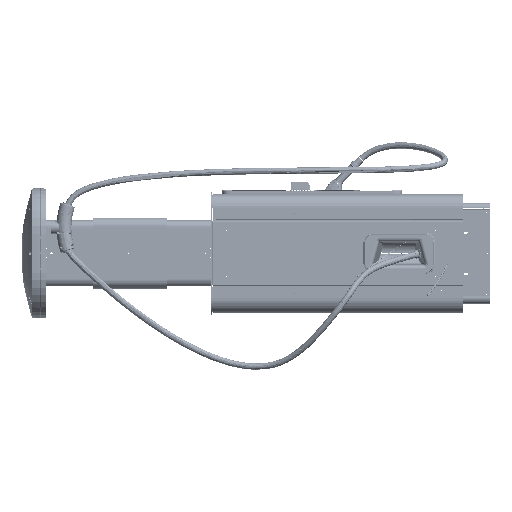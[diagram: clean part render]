
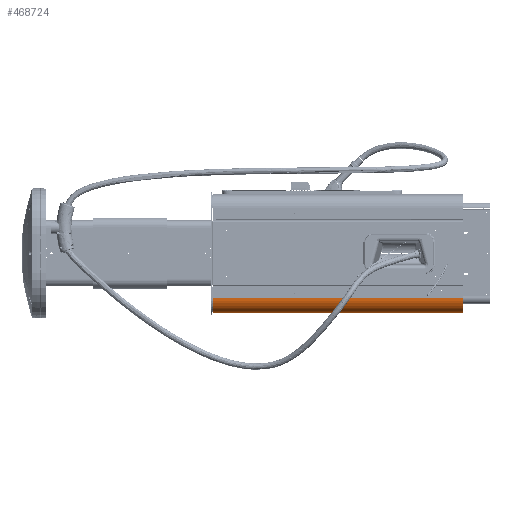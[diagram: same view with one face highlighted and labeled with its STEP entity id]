
A CAD part, left-side view. The second image highlights one B-rep face of the part: STEP entity #468724.
In plain terms, the highlighted cylindrical face has radius 80 mm (diameter 160 mm), a partial arc.
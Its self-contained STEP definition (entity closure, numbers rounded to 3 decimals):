
#1290 = CARTESIAN_POINT ( 'NONE',  ( -1063.066, 150.119, -325. ) ) ;
#34360 = CARTESIAN_POINT ( 'NONE',  ( -1063.066, 1512.119, -325. ) ) ;
#60219 = DIRECTION ( 'NONE',  ( 0., -1., 0. ) ) ;
#97343 = EDGE_CURVE ( 'NONE', #719266, #976985, #815993, .T. ) ;
#105613 = CARTESIAN_POINT ( 'NONE',  ( -1143.066, 1512.119, -245. ) ) ;
#113271 = VERTEX_POINT ( 'NONE', #290898 ) ;
#132221 = DIRECTION ( 'NONE',  ( 0., 0., 1. ) ) ;
#217900 = VECTOR ( 'NONE', #60219, 1000. ) ;
#230403 = CARTESIAN_POINT ( 'NONE',  ( -1063.066, 150.119, -245. ) ) ;
#282587 = EDGE_CURVE ( 'NONE', #113271, #389397, #697507, .T. ) ;
#290898 = CARTESIAN_POINT ( 'NONE',  ( -1063.066, 1512.119, -325. ) ) ;
#334169 = ORIENTED_EDGE ( 'NONE', *, *, #1214991, .F. ) ;
#360092 = ORIENTED_EDGE ( 'NONE', *, *, #773636, .T. ) ;
#365332 = ORIENTED_EDGE ( 'NONE', *, *, #97343, .T. ) ;
#389397 = VERTEX_POINT ( 'NONE', #412256 ) ;
#412256 = CARTESIAN_POINT ( 'NONE',  ( -1143.066, 1512.119, -245. ) ) ;
#468724 = ADVANCED_FACE ( 'NONE', ( #1021233 ), #818457, .T. ) ;
#476315 = CARTESIAN_POINT ( 'NONE',  ( -1063.066, 1512.119, -245. ) ) ;
#482771 = DIRECTION ( 'NONE',  ( 0., 1., 0. ) ) ;
#503458 = AXIS2_PLACEMENT_3D ( 'NONE', #230403, #629653, #132221 ) ;
#508964 = AXIS2_PLACEMENT_3D ( 'NONE', #476315, #482771, #881686 ) ;
#589586 = AXIS2_PLACEMENT_3D ( 'NONE', #850724, #1145063, #1138677 ) ;
#629653 = DIRECTION ( 'NONE',  ( 0., 1., 0. ) ) ;
#697507 = CIRCLE ( 'NONE', #508964, 80. ) ;
#719266 = VERTEX_POINT ( 'NONE', #1290 ) ;
#760616 = LINE ( 'NONE', #34360, #217900 ) ;
#773636 = EDGE_CURVE ( 'NONE', #113271, #719266, #760616, .T. ) ;
#805762 = DIRECTION ( 'NONE',  ( 0., -1., 0. ) ) ;
#815993 = CIRCLE ( 'NONE', #503458, 80. ) ;
#818457 = CYLINDRICAL_SURFACE ( 'NONE', #589586, 80. ) ;
#850724 = CARTESIAN_POINT ( 'NONE',  ( -1063.066, 1512.119, -245. ) ) ;
#881686 = DIRECTION ( 'NONE',  ( 0., 0., 1. ) ) ;
#881967 = VECTOR ( 'NONE', #805762, 1000. ) ;
#976985 = VERTEX_POINT ( 'NONE', #1145924 ) ;
#1021233 = FACE_OUTER_BOUND ( 'NONE', #1053719, .T. ) ;
#1046283 = ORIENTED_EDGE ( 'NONE', *, *, #282587, .F. ) ;
#1053719 = EDGE_LOOP ( 'NONE', ( #365332, #334169, #1046283, #360092 ) ) ;
#1100217 = LINE ( 'NONE', #105613, #881967 ) ;
#1138677 = DIRECTION ( 'NONE',  ( 0., 0., 1. ) ) ;
#1145063 = DIRECTION ( 'NONE',  ( 0., -1., 0. ) ) ;
#1145924 = CARTESIAN_POINT ( 'NONE',  ( -1143.066, 150.119, -245. ) ) ;
#1214991 = EDGE_CURVE ( 'NONE', #389397, #976985, #1100217, .T. ) ;
